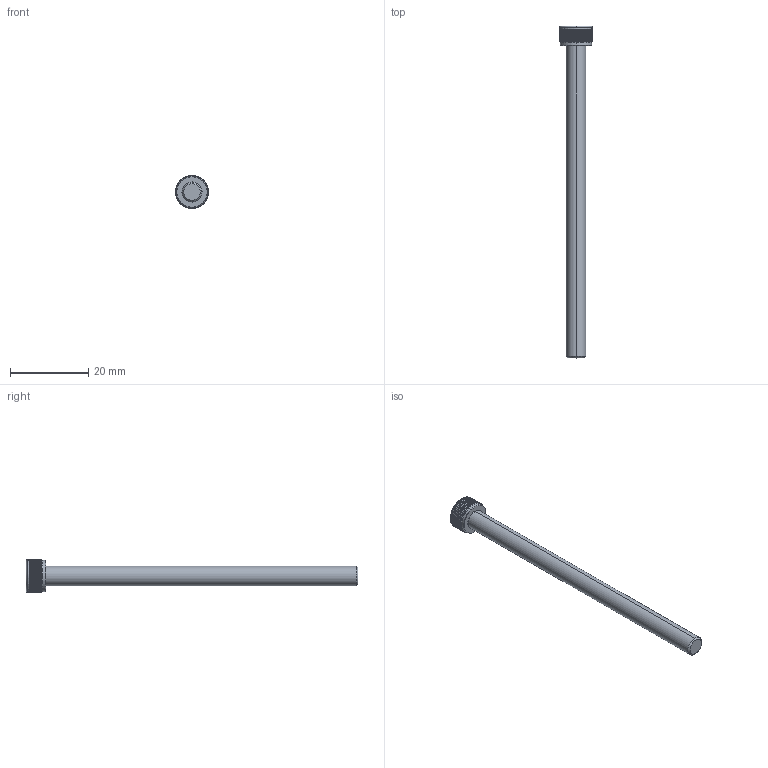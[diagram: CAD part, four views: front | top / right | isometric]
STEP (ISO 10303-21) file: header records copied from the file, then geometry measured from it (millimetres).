
FILE_DESCRIPTION (( 'STEP AP203' ), '1' );
FILE_NAME ('LGDT-304-M5x80.STEP', '2026-08-10T04:10:02', ( '' ), ( '' ), 'SwSTEP 2.0', 'SolidWorks 2020', '' );
FILE_SCHEMA (( 'CONFIG_CONTROL_DESIGN' ));
Length unit declared in the file: millimetre
Products named in the file (1): LGDT-304-M5x80
Bounding box: 8.4 x 85 x 8.4 mm (x, y, z)
Volume: 1798.8 mm3; surface area: 1525.3 mm2
Topology: 1 solids, 1 shells, 204 faces, 576 edges, 376 vertices
Faces by surface type: cylinder 175, cone 11, plane 10, torus 8
Entity records: 8367 total; most frequent: CARTESIAN_POINT 3208, ORIENTED_EDGE 1152, DIRECTION 988, EDGE_CURVE 576, AXIS2_PLACEMENT_3D 398, VERTEX_POINT 376, EDGE_LOOP 206, ADVANCED_FACE 204
